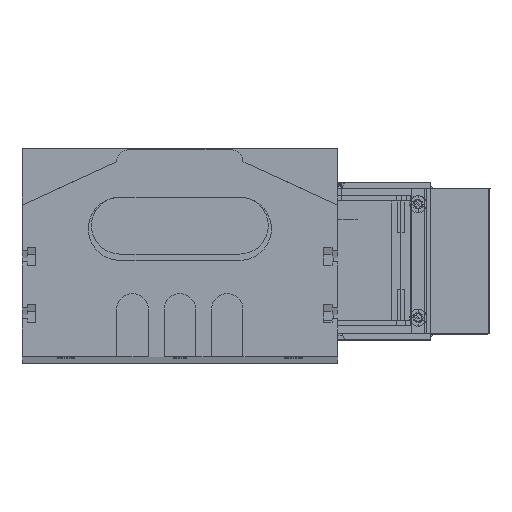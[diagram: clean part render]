
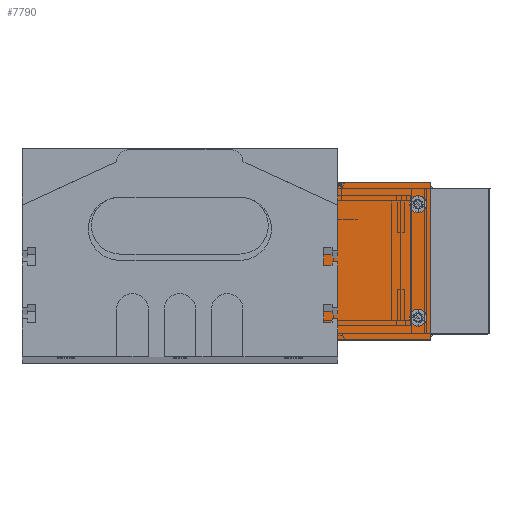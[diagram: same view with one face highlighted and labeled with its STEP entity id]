
A CAD part, top view. The second image highlights one B-rep face of the part: STEP entity #7790.
In plain terms, the highlighted planar face has unit normal (0, 0, 1) as drawn and (0, -1, 0) by its records, which use the part's own axes.
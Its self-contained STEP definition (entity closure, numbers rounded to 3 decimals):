
#3376 = VERTEX_POINT ( 'NONE', #8755 ) ;
#4088 = VERTEX_POINT ( 'NONE', #10041 ) ;
#4197 = VERTEX_POINT ( 'NONE', #10266 ) ;
#4199 = EDGE_CURVE ( 'NONE', #4208, #4197, #10274, .T. ) ;
#4208 = VERTEX_POINT ( 'NONE', #10308 ) ;
#4350 = VERTEX_POINT ( 'NONE', #10535 ) ;
#4524 = EDGE_CURVE ( 'NONE', #3376, #4350, #10761, .T. ) ;
#4633 = VERTEX_POINT ( 'NONE', #10777 ) ;
#4818 = EDGE_CURVE ( 'NONE', #4633, #4088, #10818, .T. ) ;
#5125 = EDGE_CURVE ( 'NONE', #5656, #5839, #10915, .T. ) ;
#5300 = EDGE_CURVE ( 'NONE', #5839, #5656, #10942, .T. ) ;
#5379 = EDGE_CURVE ( 'NONE', #4088, #4633, #11018, .T. ) ;
#5656 = VERTEX_POINT ( 'NONE', #11044 ) ;
#5839 = VERTEX_POINT ( 'NONE', #11037 ) ;
#6917 = EDGE_LOOP ( 'NONE', ( #7479, #7456 ) ) ;
#6948 = ORIENTED_EDGE ( 'NONE', *, *, #8413, .F. ) ;
#7123 = EDGE_LOOP ( 'NONE', ( #6948, #7287 ) ) ;
#7212 = ORIENTED_EDGE ( 'NONE', *, *, #7992, .F. ) ;
#7287 = ORIENTED_EDGE ( 'NONE', *, *, #4524, .F. ) ;
#7290 = ORIENTED_EDGE ( 'NONE', *, *, #4199, .F. ) ;
#7294 = VERTEX_POINT ( 'NONE', #11354 ) ;
#7399 = EDGE_LOOP ( 'NONE', ( #7524, #7403 ) ) ;
#7403 = ORIENTED_EDGE ( 'NONE', *, *, #5300, .F. ) ;
#7456 = ORIENTED_EDGE ( 'NONE', *, *, #4818, .F. ) ;
#7479 = ORIENTED_EDGE ( 'NONE', *, *, #5379, .F. ) ;
#7524 = ORIENTED_EDGE ( 'NONE', *, *, #5125, .F. ) ;
#7737 = EDGE_CURVE ( 'NONE', #8381, #7294, #11488, .T. ) ;
#7790 = ADVANCED_FACE ( 'NONE', ( #11481, #11537, #11480, #11533, #11538 ), #11479, .F. ) ;
#7805 = VERTEX_POINT ( 'NONE', #11539 ) ;
#7817 = EDGE_CURVE ( 'NONE', #7294, #7805, #11534, .T. ) ;
#7819 = EDGE_LOOP ( 'NONE', ( #7212, #7290 ) ) ;
#7840 = EDGE_CURVE ( 'NONE', #7805, #8498, #11520, .T. ) ;
#7868 = ORIENTED_EDGE ( 'NONE', *, *, #7923, .F. ) ;
#7923 = EDGE_CURVE ( 'NONE', #8498, #8381, #11566, .T. ) ;
#7992 = EDGE_CURVE ( 'NONE', #4197, #4208, #11548, .T. ) ;
#8246 = ORIENTED_EDGE ( 'NONE', *, *, #7817, .F. ) ;
#8287 = ORIENTED_EDGE ( 'NONE', *, *, #7840, .F. ) ;
#8373 = EDGE_LOOP ( 'NONE', ( #8246, #8486, #7868, #8287 ) ) ;
#8381 = VERTEX_POINT ( 'NONE', #11639 ) ;
#8413 = EDGE_CURVE ( 'NONE', #4350, #3376, #11616, .T. ) ;
#8486 = ORIENTED_EDGE ( 'NONE', *, *, #7737, .F. ) ;
#8498 = VERTEX_POINT ( 'NONE', #11627 ) ;
#8755 = CARTESIAN_POINT ( 'NONE',  ( -39., -2., -7.25 ) ) ;
#10041 = CARTESIAN_POINT ( 'NONE',  ( 20.2, -2., -20.75 ) ) ;
#10254 = DIRECTION ( 'NONE',  ( 0., 0., -1. ) ) ;
#10255 = DIRECTION ( 'NONE',  ( 0., -1., 0. ) ) ;
#10256 = AXIS2_PLACEMENT_3D ( 'NONE', #10273, #10255, #10254 ) ;
#10266 = CARTESIAN_POINT ( 'NONE',  ( -39., -2., 7.25 ) ) ;
#10273 = CARTESIAN_POINT ( 'NONE',  ( -39., -2., 10. ) ) ;
#10274 = CIRCLE ( 'NONE', #10256, 2.75 ) ;
#10308 = CARTESIAN_POINT ( 'NONE',  ( -39., -2., 12.75 ) ) ;
#10535 = CARTESIAN_POINT ( 'NONE',  ( -39., -2., -12.75 ) ) ;
#10746 = DIRECTION ( 'NONE',  ( 0., 0., -1. ) ) ;
#10747 = DIRECTION ( 'NONE',  ( 0., -1., 0. ) ) ;
#10749 = CARTESIAN_POINT ( 'NONE',  ( -39., -2., -10. ) ) ;
#10761 = CIRCLE ( 'NONE', #10762, 2.75 ) ;
#10762 = AXIS2_PLACEMENT_3D ( 'NONE', #10749, #10747, #10746 ) ;
#10777 = CARTESIAN_POINT ( 'NONE',  ( 20.2, -2., -15.25 ) ) ;
#10818 = CIRCLE ( 'NONE', #10852, 2.75 ) ;
#10848 = DIRECTION ( 'NONE',  ( 0., 0., -1. ) ) ;
#10849 = DIRECTION ( 'NONE',  ( 0., -1., 0. ) ) ;
#10851 = CARTESIAN_POINT ( 'NONE',  ( 20.2, -2., -18. ) ) ;
#10852 = AXIS2_PLACEMENT_3D ( 'NONE', #10851, #10849, #10848 ) ;
#10910 = DIRECTION ( 'NONE',  ( 0., 0., -1. ) ) ;
#10911 = DIRECTION ( 'NONE',  ( 0., -1., 0. ) ) ;
#10912 = CARTESIAN_POINT ( 'NONE',  ( 20.2, -2., 18. ) ) ;
#10913 = AXIS2_PLACEMENT_3D ( 'NONE', #10912, #10911, #10910 ) ;
#10915 = CIRCLE ( 'NONE', #10913, 2.75 ) ;
#10942 = CIRCLE ( 'NONE', #10950, 2.75 ) ;
#10950 = AXIS2_PLACEMENT_3D ( 'NONE', #11016, #11015, #11014 ) ;
#10989 = DIRECTION ( 'NONE',  ( 0., 0., -1. ) ) ;
#10990 = DIRECTION ( 'NONE',  ( 0., -1., 0. ) ) ;
#10999 = AXIS2_PLACEMENT_3D ( 'NONE', #11005, #10990, #10989 ) ;
#11005 = CARTESIAN_POINT ( 'NONE',  ( 20.2, -2., -18. ) ) ;
#11014 = DIRECTION ( 'NONE',  ( 0., 0., -1. ) ) ;
#11015 = DIRECTION ( 'NONE',  ( 0., -1., 0. ) ) ;
#11016 = CARTESIAN_POINT ( 'NONE',  ( 20.2, -2., 18. ) ) ;
#11018 = CIRCLE ( 'NONE', #10999, 2.75 ) ;
#11037 = CARTESIAN_POINT ( 'NONE',  ( 20.2, -2., 20.75 ) ) ;
#11044 = CARTESIAN_POINT ( 'NONE',  ( 20.2, -2., 15.25 ) ) ;
#11354 = CARTESIAN_POINT ( 'NONE',  ( 24., -2., 25. ) ) ;
#11479 = PLANE ( 'NONE',  #11530 ) ;
#11480 = FACE_BOUND ( 'NONE', #7123, .T. ) ;
#11481 = FACE_OUTER_BOUND ( 'NONE', #8373, .T. ) ;
#11486 = VECTOR ( 'NONE', #11544, 1000. ) ;
#11487 = CARTESIAN_POINT ( 'NONE',  ( -37., -2., 25. ) ) ;
#11488 = LINE ( 'NONE', #11487, #11486 ) ;
#11517 = DIRECTION ( 'NONE',  ( -1., 0., 0. ) ) ;
#11518 = VECTOR ( 'NONE', #11517, 1000. ) ;
#11519 = CARTESIAN_POINT ( 'NONE',  ( 37., -2., -25. ) ) ;
#11520 = LINE ( 'NONE', #11519, #11518 ) ;
#11521 = DIRECTION ( 'NONE',  ( 0., 0., -1. ) ) ;
#11524 = DIRECTION ( 'NONE',  ( 0., 0., 1. ) ) ;
#11527 = VECTOR ( 'NONE', #11521, 1000. ) ;
#11528 = CARTESIAN_POINT ( 'NONE',  ( 24., -2., 25. ) ) ;
#11530 = AXIS2_PLACEMENT_3D ( 'NONE', #11536, #11540, #11524 ) ;
#11533 = FACE_BOUND ( 'NONE', #6917, .T. ) ;
#11534 = LINE ( 'NONE', #11528, #11527 ) ;
#11536 = CARTESIAN_POINT ( 'NONE',  ( 37., -2., -25. ) ) ;
#11537 = FACE_BOUND ( 'NONE', #7819, .T. ) ;
#11538 = FACE_BOUND ( 'NONE', #7399, .T. ) ;
#11539 = CARTESIAN_POINT ( 'NONE',  ( 24., -2., -25. ) ) ;
#11540 = DIRECTION ( 'NONE',  ( 0., 1., 0. ) ) ;
#11544 = DIRECTION ( 'NONE',  ( 1., 0., 0. ) ) ;
#11548 = CIRCLE ( 'NONE', #11602, 2.75 ) ;
#11557 = DIRECTION ( 'NONE',  ( 0., 0., 1. ) ) ;
#11558 = VECTOR ( 'NONE', #11557, 1000. ) ;
#11559 = CARTESIAN_POINT ( 'NONE',  ( -42., -2., -25. ) ) ;
#11566 = LINE ( 'NONE', #11559, #11558 ) ;
#11599 = DIRECTION ( 'NONE',  ( 0., 0., -1. ) ) ;
#11600 = DIRECTION ( 'NONE',  ( 0., -1., 0. ) ) ;
#11601 = CARTESIAN_POINT ( 'NONE',  ( -39., -2., 10. ) ) ;
#11602 = AXIS2_PLACEMENT_3D ( 'NONE', #11601, #11600, #11599 ) ;
#11613 = DIRECTION ( 'NONE',  ( 0., -1., 0. ) ) ;
#11614 = CARTESIAN_POINT ( 'NONE',  ( -39., -2., -10. ) ) ;
#11615 = AXIS2_PLACEMENT_3D ( 'NONE', #11614, #11613, #11677 ) ;
#11616 = CIRCLE ( 'NONE', #11615, 2.75 ) ;
#11627 = CARTESIAN_POINT ( 'NONE',  ( -42., -2., -25. ) ) ;
#11639 = CARTESIAN_POINT ( 'NONE',  ( -42., -2., 25. ) ) ;
#11677 = DIRECTION ( 'NONE',  ( 0., 0., -1. ) ) ;
